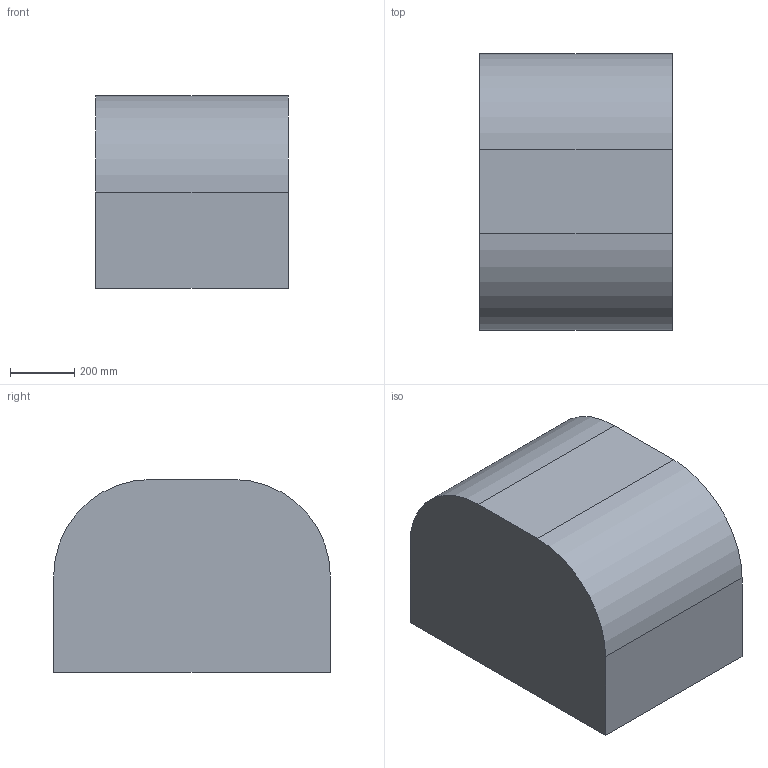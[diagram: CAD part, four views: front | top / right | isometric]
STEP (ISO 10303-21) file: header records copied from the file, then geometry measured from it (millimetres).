
FILE_DESCRIPTION( ( '' ), ' ' );
FILE_NAME( '/vol/tmp/translate-1513967921702662248/5a8b2c312e04360fe9ddcfc7.step', '2018-02-19T19:57:38', ( '' ), ( '' ), ' ', ' ', ' ' );
FILE_SCHEMA( ( 'AUTOMOTIVE_DESIGN { 1 0 10303 214 1 1 1 1 }' ) );
Length unit declared in the file: metre
Products named in the file (1): Part 3
Bounding box: 600 x 860 x 600 mm (x, y, z)
Volume: 280280588.4 mm3; surface area: 2680593.2 mm2
Topology: 1 solids, 1 shells, 12 faces, 24 edges, 16 vertices
Faces by surface type: plane 8, cylinder 4
Full cylindrical faces by diameter (mm): 108.593 x1, 300 x1
Entity records: 418 total; most frequent: DIRECTION 56, CARTESIAN_POINT 51, ORIENTED_EDGE 44, EDGE_CURVE 22, AXIS2_PLACEMENT_3D 21, EDGE_LOOP 16, VERTEX_POINT 16, FACE_OUTER_BOUND 14
